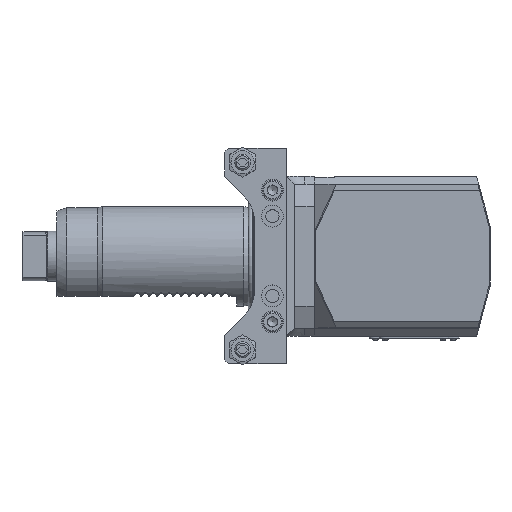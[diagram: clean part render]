
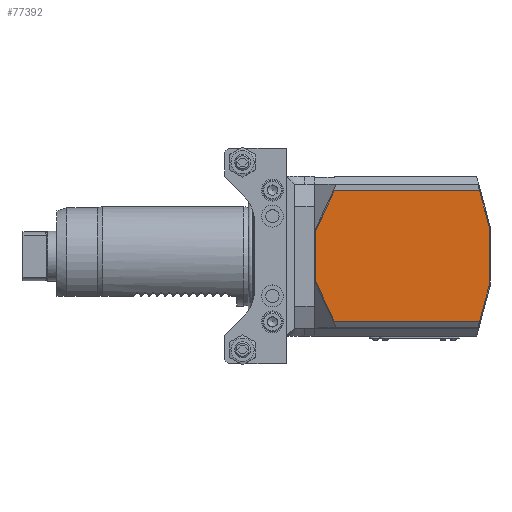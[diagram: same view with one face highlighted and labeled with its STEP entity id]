
A CAD part, top view. The second image highlights one B-rep face of the part: STEP entity #77392.
In plain terms, the highlighted planar face has unit normal (0, 0, 1) as drawn and (-1, 0, 0) by its records, which use the part's own axes.
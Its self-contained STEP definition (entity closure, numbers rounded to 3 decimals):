
#35100=VECTOR('',#59793,1.);
#35111=VECTOR('',#59808,1.);
#35116=VECTOR('',#59815,1.);
#35117=VECTOR('',#59816,1.);
#35118=VECTOR('',#59817,1.);
#35119=VECTOR('',#59818,1.);
#35120=VECTOR('',#59819,1.);
#35121=VECTOR('',#59820,1.);
#37132=LINE('',#70861,#35100);
#37143=LINE('',#70884,#35111);
#37148=LINE('',#70893,#35116);
#37149=LINE('',#70895,#35117);
#37150=LINE('',#70896,#35118);
#37151=LINE('',#70898,#35119);
#37152=LINE('',#70900,#35120);
#37153=LINE('',#70901,#35121);
#39109=PLANE('',#75702);
#44161=ORIENTED_EDGE('',*,*,#51099,.F.);
#44162=ORIENTED_EDGE('',*,*,#51115,.F.);
#44163=ORIENTED_EDGE('',*,*,#51116,.F.);
#44164=ORIENTED_EDGE('',*,*,#51117,.F.);
#44165=ORIENTED_EDGE('',*,*,#51110,.F.);
#44166=ORIENTED_EDGE('',*,*,#51118,.F.);
#44167=ORIENTED_EDGE('',*,*,#51119,.F.);
#44168=ORIENTED_EDGE('',*,*,#51120,.F.);
#48150=VERTEX_POINT('',#70858);
#48151=VERTEX_POINT('',#70860);
#48160=VERTEX_POINT('',#70882);
#48161=VERTEX_POINT('',#70883);
#48164=VERTEX_POINT('',#70892);
#48165=VERTEX_POINT('',#70894);
#48166=VERTEX_POINT('',#70897);
#48167=VERTEX_POINT('',#70899);
#51099=EDGE_CURVE('',#48150,#48151,#37132,.T.);
#51110=EDGE_CURVE('',#48160,#48161,#37143,.T.);
#51115=EDGE_CURVE('',#48164,#48150,#37148,.T.);
#51116=EDGE_CURVE('',#48165,#48164,#37149,.T.);
#51117=EDGE_CURVE('',#48161,#48165,#37150,.T.);
#51118=EDGE_CURVE('',#48166,#48160,#37151,.T.);
#51119=EDGE_CURVE('',#48167,#48166,#37152,.T.);
#51120=EDGE_CURVE('',#48151,#48167,#37153,.T.);
#53374=EDGE_LOOP('',(#44161,#44162,#44163,#44164,#44165,#44166,#44167,#44168));
#55172=FACE_BOUND('',#53374,.T.);
#59793=DIRECTION('',(0.,-72.709,0.));
#59808=DIRECTION('',(0.,72.709,0.));
#59813=DIRECTION('',(-1.,0.,0.));
#59814=DIRECTION('',(0.,1.,0.));
#59815=DIRECTION('',(0.,-9.524,20.425));
#59816=DIRECTION('',(0.,0.,24.599));
#59817=DIRECTION('',(0.,9.524,20.425));
#59818=DIRECTION('',(0.,4.767,-17.79));
#59819=DIRECTION('',(0.,0.,-29.868));
#59820=DIRECTION('',(0.,-4.767,-17.79));
#70858=CARTESIAN_POINT('',(46.381,126.198,32.724));
#70860=CARTESIAN_POINT('',(46.381,53.489,32.724));
#70861=CARTESIAN_POINT('',(46.381,126.198,32.724));
#70882=CARTESIAN_POINT('',(46.381,53.489,-32.724));
#70883=CARTESIAN_POINT('',(46.381,126.198,-32.724));
#70884=CARTESIAN_POINT('',(46.381,53.489,-32.724));
#70891=CARTESIAN_POINT('',(46.381,48.222,0.));
#70892=CARTESIAN_POINT('',(46.381,135.722,12.3));
#70893=CARTESIAN_POINT('',(46.381,135.722,12.3));
#70894=CARTESIAN_POINT('',(46.381,135.722,-12.3));
#70895=CARTESIAN_POINT('',(46.381,135.722,-12.3));
#70896=CARTESIAN_POINT('',(46.381,126.198,-32.724));
#70897=CARTESIAN_POINT('',(46.381,48.722,-14.934));
#70898=CARTESIAN_POINT('',(46.381,48.722,-14.934));
#70899=CARTESIAN_POINT('',(46.381,48.722,14.934));
#70900=CARTESIAN_POINT('',(46.381,48.722,14.934));
#70901=CARTESIAN_POINT('',(46.381,53.489,32.724));
#75702=AXIS2_PLACEMENT_3D('',#70891,#59813,#59814);
#77392=ADVANCED_FACE('',(#55172),#39109,.T.);
